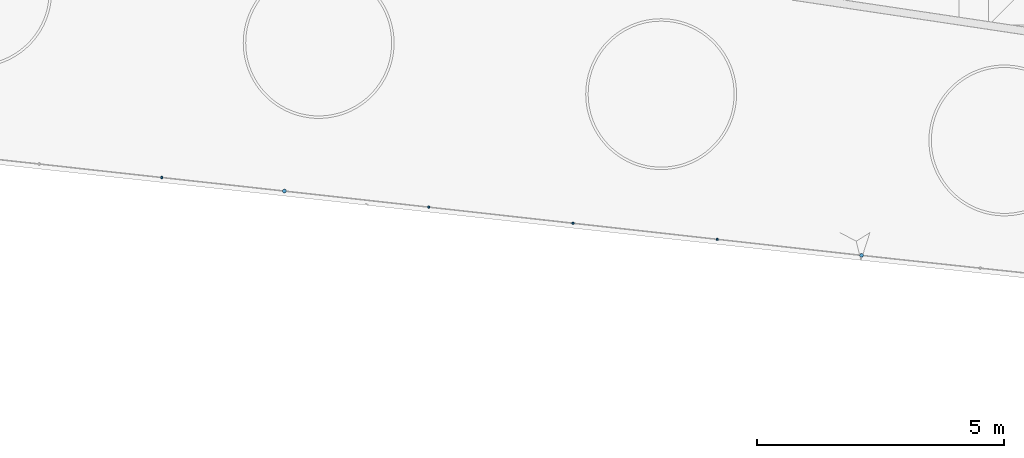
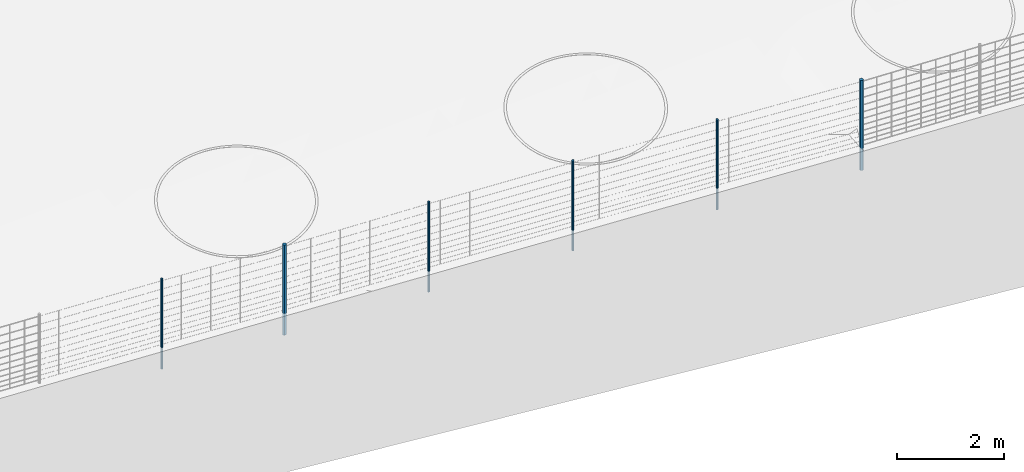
# Not in any storey, part 6 of 72: 6 members.
"""IFC4 model written with IfcOpenShell, lengths in metres."""

from ifc_helpers import new_model, si_unit, direction, frame, origin_with_axes, place, context, subcontext, project, spatial, circle, extrude, material, material_profile, profile_set, profile_usage, type_object, element, save


model = new_model("IFC4")

# Units and contexts
model_context = context("Model", 3, precision=1e-05, world=origin_with_axes(), true_north=direction((0.0, 1.0)))
body_context = subcontext(model_context, "Body", "Model", "MODEL_VIEW")
ifc_project = project(units=[si_unit("VOLUMEUNIT", "CUBIC_METRE"), si_unit("LENGTHUNIT", "METRE"), si_unit("AREAUNIT", "SQUARE_METRE")], contexts=[model_context])

# Site
site_placement = place(None, origin_with_axes())
site = spatial("IfcSite", under=ifc_project, at=site_placement, Name="Lares · Rua das Mercês · artigo 4771")

# Members
ifc_material = material(Name="Aço galvanizado / Stahl verzinkt", Category="steel")
ifc_material_profile_1 = material_profile(ifc_material, circle(Radius=0.038))
ifc_profile_set_1 = profile_set([ifc_material_profile_1], Name="D0.076")
ifc_profile_usage_1 = profile_usage(ifc_profile_set_1)
member_type_1 = type_object("IfcMemberType", Name="D0.076 / galvanized", PredefinedType="NOTDEFINED", material=ifc_profile_set_1)
member_1_placement = place(site_placement, frame((35.1254884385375, -1.01749437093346, 12.5268517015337), z_axis=(0.0, 0.0, 1.0), x_axis=(1.0, -1.03767253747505e-17, 0.0)))
element("IfcMember", 1, at=member_1_placement, inside=site, type_object=member_type_1, material=ifc_profile_usage_1, Name="Vedação · poste de canto/topo", PredefinedType="POST", context=body_context, shape_type="SweptSolid", body=[
    extrude(circle(Radius=0.038), origin_with_axes(), (0.0, 0.0, 1.0), 2.05),
])
ifc_profile_usage_2 = profile_usage(ifc_profile_set_1)
member_2_placement = place(site_placement, frame((23.4588193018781, 0.283191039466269, 12.0750367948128), z_axis=(0.0, 0.0, 1.0), x_axis=(1.0, -1.03767253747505e-17, 0.0)))
element("IfcMember", 2, at=member_2_placement, inside=site, type_object=member_type_1, material=ifc_profile_usage_2, Name="Vedação · poste de canto/topo", PredefinedType="POST", context=body_context, shape_type="SweptSolid", body=[
    extrude(circle(Radius=0.038), origin_with_axes(), (0.0, 0.0, 1.0), 2.05),
])
ifc_material_profile_2 = material_profile(ifc_material, circle(Radius=0.024))
ifc_profile_set_2 = profile_set([ifc_material_profile_2], Name="D0.048")
ifc_profile_usage_3 = profile_usage(ifc_profile_set_2)
member_type_2 = type_object("IfcMemberType", Name="D0.048 / galvanized", PredefinedType="NOTDEFINED", material=ifc_profile_set_2)
member_3_placement = place(site_placement, frame((32.2088211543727, -0.692323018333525, 12.4464278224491), z_axis=(0.0, 0.0, 1.0), x_axis=(1.0, -1.03767253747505e-17, 0.0)))
element("IfcMember", 3, at=member_3_placement, inside=site, type_object=member_type_2, material=ifc_profile_usage_3, Name="Vedação · poste intermédio", PredefinedType="POST", context=body_context, shape_type="SweptSolid", body=[
    extrude(circle(Radius=0.024), origin_with_axes(), (0.0, 0.0, 1.0), 2.05),
])
ifc_profile_usage_4 = profile_usage(ifc_profile_set_2)
member_4_placement = place(site_placement, frame((29.2921538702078, -0.367151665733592, 12.3345290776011), z_axis=(0.0, 0.0, 1.0), x_axis=(1.0, -1.03767253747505e-17, 0.0)))
element("IfcMember", 4, at=member_4_placement, inside=site, type_object=member_type_2, material=ifc_profile_usage_4, Name="Vedação · poste intermédio", PredefinedType="POST", context=body_context, shape_type="SweptSolid", body=[
    extrude(circle(Radius=0.024), origin_with_axes(), (0.0, 0.0, 1.0), 2.05),
])
ifc_profile_usage_5 = profile_usage(ifc_profile_set_2)
member_5_placement = place(site_placement, frame((26.375486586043, -0.0419803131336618, 12.2205914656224), z_axis=(0.0, 0.0, 1.0), x_axis=(1.0, -1.03767253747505e-17, 0.0)))
element("IfcMember", 5, at=member_5_placement, inside=site, type_object=member_type_2, material=ifc_profile_usage_5, Name="Vedação · poste intermédio", PredefinedType="POST", context=body_context, shape_type="SweptSolid", body=[
    extrude(circle(Radius=0.024), origin_with_axes(), (0.0, 0.0, 1.0), 2.05),
])
ifc_profile_usage_6 = profile_usage(ifc_profile_set_2)
member_6_placement = place(site_placement, frame((20.9789475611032, 0.55659469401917, 11.995145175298), z_axis=(0.0, 0.0, 1.0), x_axis=(1.0, -1.03767253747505e-17, 0.0)))
element("IfcMember", 6, at=member_6_placement, inside=site, type_object=member_type_2, material=ifc_profile_usage_6, Name="Vedação · poste intermédio", PredefinedType="POST", context=body_context, shape_type="SweptSolid", body=[
    extrude(circle(Radius=0.024), origin_with_axes(), (0.0, 0.0, 1.0), 2.05),
])

save(model, "model.ifc")
